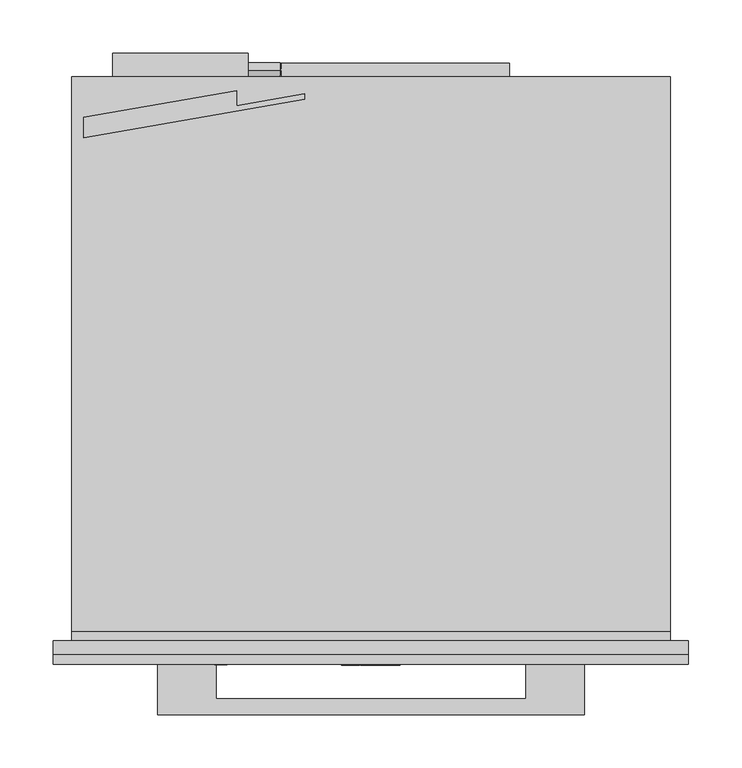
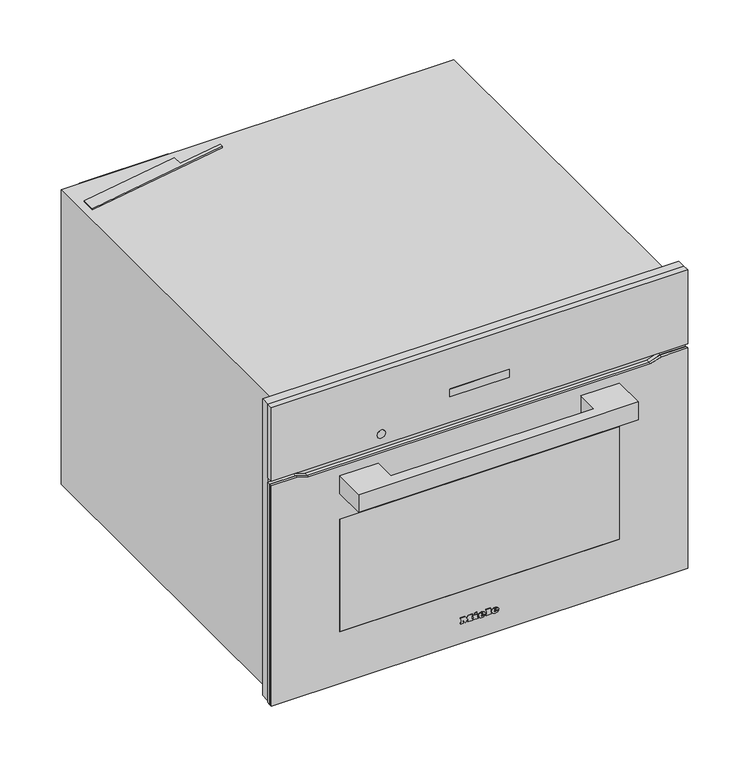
"""IFC4 building model written with IfcOpenShell, lengths in millimetres: proxy geometry, 12842740_USA_H7240BM_OBSW : 22724026_USA_12842740_H7240BM_OBSW."""

import ifcopenshell
import ifcopenshell.guid

model = None  # the IFC model being written
_history = None  # IfcOwnerHistory: only IFC2X3 demands one
_inside = {}  # id of a spatial element -> (the spatial element, [elements in it])
_under = {}  # id of a project, library or spatial element -> (it, [spatial elements below it])
_declared = {}  # id of a project -> (the project, [libraries it declares])
_typed = {}  # id of a type object -> (the type object, [elements of that type])
_made_of = {}  # id of a material, layer set ... -> (it, [elements and type objects made of it])


def new_model(schema):
    """Start an empty IFC model of exactly this schema.

    Asked for "IFC4X3", IfcOpenShell would pick the latest addendum, in which some entities
    have other attributes; the version numbers below select the first issue.
    IFC2X3 requires an IfcOwnerHistory on every rooted entity: one is made here for all.
    """
    global model, _history
    if schema == "IFC4X3":
        model = ifcopenshell.file(schema_version=(4, 3, 0, 0))
    else:
        model = ifcopenshell.file(schema=schema)
    _inside.clear()
    _under.clear()
    _declared.clear()
    _typed.clear()
    _made_of.clear()
    _history = None
    if model.schema == "IFC2X3":
        org = make("IfcOrganization", Name="unknown")
        user = make(
            "IfcPersonAndOrganization",
            ThePerson=make("IfcPerson", FamilyName="unknown"),
            TheOrganization=org,
        )
        app = make(
            "IfcApplication",
            ApplicationDeveloper=org,
            Version="unknown",
            ApplicationFullName="unknown",
            ApplicationIdentifier="unknown",
        )
        _history = make(
            "IfcOwnerHistory",
            OwningUser=user,
            OwningApplication=app,
            ChangeAction="ADDED",
            CreationDate=0,
        )
    return model


def make(cls, **values):
    """One entity of the class cls with the attributes given. An attribute that is None is left unset."""
    return model.create_entity(
        cls, **{name: value for name, value in values.items() if value is not None}
    )


def rooted(cls, **values):
    """An entity with a GlobalId (a new one), such as an element, a storey or a relation."""
    return make(cls, GlobalId=ifcopenshell.guid.new(), OwnerHistory=_history, **values)


def si_unit(unit_type, name, prefix=None):
    """IfcSIUnit, for example si_unit("LENGTHUNIT", "METRE", prefix="MILLI")."""
    return make("IfcSIUnit", UnitType=unit_type, Prefix=prefix, Name=name)


def assignment(units):
    """IfcUnitAssignment: the units of a project."""
    return None if units is None else make("IfcUnitAssignment", Units=units)


def point(xyz):
    """IfcCartesianPoint."""
    return None if xyz is None else make("IfcCartesianPoint", Coordinates=xyz)


def direction(xyz):
    """IfcDirection."""
    return None if xyz is None else make("IfcDirection", DirectionRatios=xyz)


def frame(location, z_axis=None, x_axis=None):
    """IfcAxis2Placement3D, a coordinate frame: its origin and axes. An axis left out is left unset."""
    return make(
        "IfcAxis2Placement3D",
        Location=point(location),
        Axis=direction(z_axis),
        RefDirection=direction(x_axis),
    )


def frame_2d(location, x_axis=None):
    """IfcAxis2Placement2D, a coordinate frame in the plane: its origin and x axis."""
    return make(
        "IfcAxis2Placement2D", Location=point(location), RefDirection=direction(x_axis)
    )


def origin():
    """The frame at (0, 0, 0) with its axes left unset."""
    return frame((0.0, 0.0, 0.0))


def place(relative_to, where):
    """IfcLocalPlacement: puts the frame where relative to a parent placement (None: the world)."""
    return make(
        "IfcLocalPlacement", PlacementRelTo=relative_to, RelativePlacement=where
    )


def context(
    kind, dimensions, precision=None, world=None, true_north=None, identifier=None
):
    """IfcGeometricRepresentationContext, for example the 3D "Model" context."""
    return make(
        "IfcGeometricRepresentationContext",
        ContextIdentifier=identifier,
        ContextType=kind,
        CoordinateSpaceDimension=dimensions,
        Precision=precision,
        WorldCoordinateSystem=world,
        TrueNorth=true_north,
    )


def project(units=None, contexts=None):
    """IfcProject with its units and contexts."""
    return rooted(
        "IfcProject",
        Name="project",
        RepresentationContexts=contexts,
        UnitsInContext=assignment(units),
    )


def spatial(cls, under=None, at=None, **own):
    """A site, building, storey or space (cls), placed at a placement, below another one or the project."""
    s = rooted(cls, ObjectPlacement=at, **own)
    if under is not None:
        _under.setdefault(under.id(), (under, []))[1].append(s)
    return s


def polyline(points):
    """IfcPolyline through the points."""
    return make("IfcPolyline", Points=[point(p) for p in points])


def circle_curve(where, radius):
    """IfcCircle in the frame where."""
    return make("IfcCircle", Position=where, Radius=radius)


def ellipse_curve(where, semi_axis1, semi_axis2):
    """IfcEllipse in the frame where."""
    return make(
        "IfcEllipse", Position=where, SemiAxis1=semi_axis1, SemiAxis2=semi_axis2
    )


def trimmed(basis, trim1, trim2, sense, master):
    """IfcTrimmedCurve: the piece of a basis curve between two trims."""
    return make(
        "IfcTrimmedCurve",
        BasisCurve=basis,
        Trim1=trim1,
        Trim2=trim2,
        SenseAgreement=sense,
        MasterRepresentation=master,
    )


def segment(curve, same_sense, transition):
    """IfcCompositeCurveSegment."""
    return make(
        "IfcCompositeCurveSegment",
        Transition=transition,
        SameSense=same_sense,
        ParentCurve=curve,
    )


def composite_curve(segments, self_intersect=None):
    """IfcCompositeCurve: segments joined end to end."""
    return make("IfcCompositeCurve", Segments=segments, SelfIntersect=self_intersect)


def outline(outer, holes=None, kind="AREA"):
    """IfcArbitraryClosedProfileDef: a profile drawn as a closed curve; with holes, ...WithVoids."""
    if holes is None:
        return make("IfcArbitraryClosedProfileDef", ProfileType=kind, OuterCurve=outer)
    return make(
        "IfcArbitraryProfileDefWithVoids",
        ProfileType=kind,
        OuterCurve=outer,
        InnerCurves=holes,
    )


def extrude(swept, where, along, depth):
    """IfcExtrudedAreaSolid: the profile swept, set in the frame where, extruded along a direction by depth."""
    return make(
        "IfcExtrudedAreaSolid",
        SweptArea=swept,
        Position=where,
        ExtrudedDirection=direction(along),
        Depth=depth,
    )


def faces_of(points, faces, orient=None, outer=None):
    """IfcFace entities. A face is a list of loops; a loop is a list of indices into points, from 0.

    orient and outer hold one flag for each loop. By default every Orientation is true, the
    first loop of a face is its IfcFaceOuterBound and the others are IfcFaceBound.
    """
    made = []
    for i, loops in enumerate(faces):
        bounds = []
        for j, loop in enumerate(loops):
            is_outer = j == 0 if outer is None else outer[i][j]
            bounds.append(
                make(
                    "IfcFaceOuterBound" if is_outer else "IfcFaceBound",
                    Bound=make("IfcPolyLoop", Polygon=[points[k] for k in loop]),
                    Orientation=True if orient is None else orient[i][j],
                )
            )
        made.append(make("IfcFace", Bounds=bounds))
    return made


def faceted_brep(points, faces, orient=None, outer=None, voids=None):
    """IfcFacetedBrep: a solid bounded by flat faces; with voids (closed shells), ...WithVoids."""
    shared = [point(p) for p in points]
    hull = make("IfcClosedShell", CfsFaces=faces_of(shared, faces, orient, outer))
    if voids is None:
        return make("IfcFacetedBrep", Outer=hull)
    return make(
        "IfcFacetedBrepWithVoids",
        Outer=hull,
        Voids=[
            make(cls, CfsFaces=faces_of(shared, fs, o, b)) for cls, fs, o, b in voids
        ],
    )


def shape(context_of_items, identifier, shape_type, items):
    """IfcShapeRepresentation: the items that make up one representation, for example the "Body"."""
    return make(
        "IfcShapeRepresentation",
        ContextOfItems=context_of_items,
        RepresentationIdentifier=identifier,
        RepresentationType=shape_type,
        Items=items,
    )


def source(mapping_origin, context_of_items, identifier, shape_type, items):
    """IfcRepresentationMap: a shape defined once, which mapped items show again and again."""
    return make(
        "IfcRepresentationMap",
        MappingOrigin=mapping_origin,
        MappedRepresentation=shape(context_of_items, identifier, shape_type, items),
    )


def transform(
    local_origin,
    x_axis=None,
    y_axis=None,
    z_axis=None,
    scale=None,
    scale2=None,
    scale3=None,
    uniform=True,
):
    """IfcCartesianTransformationOperator3D, or its non-uniform kind. x_axis, y_axis, z_axis: its Axis1, 2, 3."""
    if uniform:
        return make(
            "IfcCartesianTransformationOperator3D",
            Axis1=direction(x_axis),
            Axis2=direction(y_axis),
            LocalOrigin=point(local_origin),
            Scale=scale,
            Axis3=direction(z_axis),
        )
    return make(
        "IfcCartesianTransformationOperator3DnonUniform",
        Axis1=direction(x_axis),
        Axis2=direction(y_axis),
        LocalOrigin=point(local_origin),
        Scale=scale,
        Axis3=direction(z_axis),
        Scale2=scale2,
        Scale3=scale3,
    )


def mapped(mapping_source, mapping_target):
    """IfcMappedItem: shows the shape of a source again, moved by a transform."""
    return make(
        "IfcMappedItem", MappingSource=mapping_source, MappingTarget=mapping_target
    )


def made_of(thing, what):
    """Note that an element or type object is made of a material, layer set ...; save() writes the relation."""
    if what is not None:
        _made_of.setdefault(what.id(), (what, []))[1].append(thing)
    return thing


def element(
    cls,
    number,
    at=None,
    inside=None,
    cuts=None,
    type_object=None,
    material=None,
    context=None,
    identifier="Body",
    shape_type=None,
    held_by="IfcProductDefinitionShape",
    body=None,
    shapes=None,
    **own,
):
    """One element of the class cls, such as IfcWall. Its Tag is "e" and its number.

    at: its placement. inside: the storey or other place that contains it. cuts: it is an
    opening in that element (IfcRelVoidsElement). A single representation is given by context,
    identifier, shape_type and body (its items); several are given by shapes. held_by: the class
    of the entity that holds the representations. save() writes the other relations.
    """
    e = rooted(cls, Tag="e%d" % number, ObjectPlacement=at, **own)
    if body is not None:
        shapes = [shape(context, identifier, shape_type, body)]
    if shapes is not None:
        e.Representation = make(held_by, Representations=shapes)
    if inside is not None:
        _inside.setdefault(inside.id(), (inside, []))[1].append(e)
    if cuts is not None:
        rooted(
            "IfcRelVoidsElement", RelatingBuildingElement=cuts, RelatedOpeningElement=e
        )
    if type_object is not None:
        _typed.setdefault(type_object.id(), (type_object, []))[1].append(e)
    return made_of(e, material)


def aggregate(whole, parts):
    """IfcRelAggregates: a whole, such as a stair, and the parts it consists of."""
    return rooted("IfcRelAggregates", RelatingObject=whole, RelatedObjects=parts)


def save(model, path):
    """Write the relations noted so far, then the file.

    IfcRelAggregates (storeys below a building ...), IfcRelContainedInSpatialStructure (elements
    in a storey), IfcRelDefinesByType, IfcRelAssociatesMaterial and IfcRelDeclares: one each for
    every whole, place, type object, material and project.
    """
    for whole, parts in _under.values():
        aggregate(whole, parts)
    for where, things in _inside.values():
        rooted(
            "IfcRelContainedInSpatialStructure",
            RelatedElements=things,
            RelatingStructure=where,
        )
    for kind, things in _typed.values():
        rooted("IfcRelDefinesByType", RelatedObjects=things, RelatingType=kind)
    for what, things in _made_of.values():
        rooted("IfcRelAssociatesMaterial", RelatedObjects=things, RelatingMaterial=what)
    for by, libraries in _declared.values():
        rooted("IfcRelDeclares", RelatingContext=by, RelatedDefinitions=libraries)
    model.write(path)


def plane_surface(at):
    """IfcPlane: the flat surface through the origin of the frame at, square to its z axis."""
    return make("IfcPlane", Position=at)


def cylinder_surface(at, radius):
    """IfcCylindricalSurface: all points at the distance radius from the z axis of the frame at."""
    return make("IfcCylindricalSurface", Position=at, Radius=radius)


def revolved_surface(curve, axis_point, axis_direction):
    """IfcSurfaceOfRevolution: the curve turned about the line through axis_point along axis_direction."""
    return make(
        "IfcSurfaceOfRevolution",
        SweptCurve=make("IfcArbitraryOpenProfileDef", ProfileType="CURVE", Curve=curve),
        AxisPosition=make("IfcAxis1Placement", Location=point(axis_point), Axis=direction(axis_direction)),
    )


def extruded_surface(curve, direction_of_extrusion, depth):
    """IfcSurfaceOfLinearExtrusion: the curve pushed along a direction by depth."""
    return make(
        "IfcSurfaceOfLinearExtrusion",
        SweptCurve=make("IfcArbitraryOpenProfileDef", ProfileType="CURVE", Curve=curve),
        ExtrudedDirection=direction(direction_of_extrusion),
        Depth=depth,
    )


def advanced_brep(points, edges, surfaces, faces):
    """IfcAdvancedBrep: a solid bounded by faces that lie on surfaces and meet in shared edges.

    An edge is (start, end): straight between two places in points (the first is 0);
    or (start, end, curve); or (start, end, curve, False) where it runs against its curve.
    A face is (place in surfaces, loops), or (place, loops, False) where it looks against
    its surface's normal. A loop lists edges by number (the first is 1), with a minus sign
    where the edge is run from its end to its start. The first loop is the outer one.
    """
    corners = [point(p) for p in points]
    vertices = [make("IfcVertexPoint", VertexGeometry=c) for c in corners]
    made = []
    for start, end, *more in edges:
        made.append(
            make(
                "IfcEdgeCurve",
                EdgeStart=vertices[start],
                EdgeEnd=vertices[end],
                EdgeGeometry=more[0] if more else make("IfcPolyline", Points=[corners[start], corners[end]]),
                SameSense=more[1] if len(more) > 1 else True,
            )
        )
    hull = []
    for where, loops, *sense in faces:
        bounds = []
        for j, loop in enumerate(loops):
            ring = [make("IfcOrientedEdge", EdgeElement=made[abs(k) - 1], Orientation=k > 0) for k in loop]
            bounds.append(
                make(
                    "IfcFaceOuterBound" if j == 0 else "IfcFaceBound",
                    Bound=make("IfcEdgeLoop", EdgeList=ring),
                    Orientation=True,
                )
            )
        hull.append(make("IfcAdvancedFace", Bounds=bounds, FaceSurface=surfaces[where], SameSense=sense[0] if sense else True))
    return make("IfcAdvancedBrep", Outer=make("IfcClosedShell", CfsFaces=hull))


def specialty_equipment_4923d833(model_context):
    return source(origin(), model_context, "Body", "SolidModel", [
        advanced_brep(
        [(21.28, -23.0, 36.133), (21.28, -23.0, 37.042), (27.301, -23.0, 37.042), (16.825, -23.0, 37.042), (19.3, -23.0, 34.0), (27.148, -23.0, 36.133), (24.43, -23.0, 36.133), (22.288, -23.0, 35.125), (21.28, -23.0, 38.194), (21.28, -23.0, 39.175), (22.819, -23.0, 39.175), (22.819, -23.0, 38.194), (21.28, -22.0, 36.133), (22.288, -22.0, 35.125), (24.43, -22.0, 36.133), (27.148, -22.0, 36.133), (19.3, -22.0, 34.0), (16.825, -22.0, 37.042), (27.301, -22.0, 37.042), (21.28, -22.0, 37.042), (21.28, -22.0, 38.194), (22.819, -22.0, 38.194), (22.819, -22.0, 39.175), (21.28, -22.0, 39.175)],
        [
            (0, 1),
            (1, 2),
            (2, 3, ellipse_curve(frame((22.063, -23.0, 37.042), z_axis=(0.0, -1.0, 0.0), x_axis=(-1.0, 0.0, 0.0)), 5.238, 4.329)),
            (3, 4, circle_curve(frame((20.3080491, -23.0, 37.348), z_axis=(0.0, -1.0, 0.0), x_axis=(0.0, 0.0, -1.0)), 3.4964649)),
            (4, 5, circle_curve(frame((21.9581428, -23.0, 39.724), z_axis=(0.0, -1.0, 0.0), x_axis=(0.0, 0.0, -1.0)), 6.3110933)),
            (5, 6),
            (6, 7, circle_curve(frame((22.7279412, -23.0, 36.97), z_axis=(0.0, 1.0, 0.0), x_axis=(0.0, 0.0, -1.0)), 1.896727)),
            (7, 0, circle_curve(frame((22.288, -23.0, 36.133), z_axis=(0.0, 1.0, 0.0), x_axis=(0.0, 0.0, -1.0)), 1.008)),
            (8, 9),
            (9, 10, circle_curve(frame((22.0495, -23.0, 39.175), z_axis=(0.0, 1.0, 0.0), x_axis=(0.0, 0.0, -1.0)), 0.7695)),
            (10, 11),
            (11, 8),
            (12, 13, circle_curve(frame((22.288, -22.0, 36.133), z_axis=(0.0, -1.0, 0.0), x_axis=(0.0, 0.0, -1.0)), 1.008)),
            (13, 14, circle_curve(frame((22.7279412, -22.0, 36.97), z_axis=(0.0, -1.0, 0.0), x_axis=(0.0, 0.0, -1.0)), 1.896727)),
            (14, 15),
            (15, 16, circle_curve(frame((21.9581428, -22.0, 39.724), z_axis=(0.0, 1.0, 0.0), x_axis=(0.0, 0.0, -1.0)), 6.3110933)),
            (16, 17, circle_curve(frame((20.3080491, -22.0, 37.348), z_axis=(0.0, 1.0, 0.0), x_axis=(0.0, 0.0, -1.0)), 3.4964649)),
            (17, 18, ellipse_curve(frame((22.063, -22.0, 37.042), z_axis=(0.0, 1.0, 0.0), x_axis=(-1.0, 0.0, 0.0)), 5.238, 4.329)),
            (18, 19),
            (19, 12),
            (20, 21),
            (21, 22),
            (22, 23, circle_curve(frame((22.0495, -22.0, 39.175), z_axis=(0.0, -1.0, 0.0), x_axis=(0.0, 0.0, -1.0)), 0.7695)),
            (23, 20),
            (0, 12),
            (19, 1),
            (18, 2),
            (5, 15),
            (14, 6),
            (17, 3),
            (13, 7),
            (16, 4),
            (8, 20),
            (23, 9),
            (22, 10),
            (21, 11),
        ],
        [
            plane_surface(frame((21.28, -23.0, 37.042), z_axis=(0.0, -1.0, 0.0), x_axis=(0.0, 0.0, 1.0))),
            plane_surface(frame((21.28, -22.0, 37.042), z_axis=(0.0, 1.0, 0.0), x_axis=(0.0, 0.0, -1.0))),
            plane_surface(frame((21.28, -23.0, 36.133), z_axis=(1.0, 0.0, 0.0), x_axis=(0.0, 1.0, 0.0))),
            plane_surface(frame((21.28, -23.0, 37.042), z_axis=(0.0, 0.0, -1.0), x_axis=(0.0, 1.0, 0.0))),
            plane_surface(frame((27.148, -23.0, 36.133), z_axis=(0.0, 0.0, 1.0), x_axis=(0.0, 1.0, 0.0))),
            extruded_surface(trimmed(ellipse_curve(frame((22.063, -21.0, 37.042), z_axis=(0.0, -1.0, 0.0), x_axis=(-1.0, 0.0, 0.0)), 5.238, 4.329), [point((27.301, -21.0, 37.042))], [point((16.825, -21.0, 37.042))], True, "CARTESIAN"), (0.0, -1.0, 0.0), 1.0),
            revolved_surface(polyline([(22.7279412, -22.0, 35.073273), (22.7279412, -23.0, 35.073273)]), (22.7279412, -22.0, 36.97), (0.0, 1.0, 0.0)),
            revolved_surface(polyline([(22.288, -22.0, 35.125), (22.288, -23.0, 35.125)]), (22.288, -22.0, 36.133), (0.0, 1.0, 0.0)),
            cylinder_surface(frame((20.3080491, -22.0, 37.348), z_axis=(0.0, -1.0, 0.0), x_axis=(0.0, 0.0, -1.0)), 3.4964649),
            cylinder_surface(frame((21.9581428, -22.0, 39.724), z_axis=(0.0, -1.0, 0.0), x_axis=(0.0, 0.0, -1.0)), 6.3110933),
            plane_surface(frame((21.28, -23.0, 38.194), z_axis=(1.0, 0.0, 0.0), x_axis=(0.0, 1.0, 0.0))),
            revolved_surface(polyline([(22.0495, -22.0, 38.405499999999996), (22.0495, -23.0, 38.405499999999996)]), (22.0495, -22.0, 39.175), (0.0, 1.0, 0.0)),
            plane_surface(frame((22.819, -23.0, 39.175), z_axis=(-1.0, 0.0, 0.0), x_axis=(0.0, 1.0, 0.0))),
            plane_surface(frame((22.819, -23.0, 38.194), z_axis=(0.0, 0.0, 1.0), x_axis=(0.0, 1.0, 0.0))),
        ],
        [
            (0, [[1, 2, 3, 4, 5, 6, 7, 8], [9, 10, 11, 12]]),
            (1, [[13, 14, 15, 16, 17, 18, 19, 20], [21, 22, 23, 24]]),
            (2, [[-1, 25, -20, 26]]),
            (3, [[-2, -26, -19, 27]]),
            (4, [[-6, 28, -15, 29]]),
            (5, [[-3, -27, -18, 30]]),
            (6, [[-7, -29, -14, 31]]),
            (7, [[-8, -31, -13, -25]]),
            (8, [[-4, -30, -17, 32]]),
            (9, [[-5, -32, -16, -28]]),
            (10, [[-9, 33, -24, 34]]),
            (11, [[-10, -34, -23, 35]]),
            (12, [[-11, -35, -22, 36]]),
            (13, [[-12, -36, -21, -33]]),
        ],
    ),
        advanced_brep(
        [(2.497, -23.0, 36.133), (2.497, -23.0, 37.042), (8.518, -23.0, 37.042), (-1.958, -23.0, 37.042), (0.517, -23.0, 34.0), (8.365, -23.0, 36.133), (5.647, -23.0, 36.133), (3.505, -23.0, 35.125), (2.497, -23.0, 38.194), (2.497, -23.0, 39.175), (4.036, -23.0, 39.175), (4.036, -23.0, 38.194), (2.497, -22.0, 36.133), (3.505, -22.0, 35.125), (5.647, -22.0, 36.133), (8.365, -22.0, 36.133), (0.517, -22.0, 34.0), (-1.958, -22.0, 37.042), (8.518, -22.0, 37.042), (2.497, -22.0, 37.042), (2.497, -22.0, 38.194), (4.036, -22.0, 38.194), (4.036, -22.0, 39.175), (2.497, -22.0, 39.175)],
        [
            (0, 1),
            (1, 2),
            (2, 3, ellipse_curve(frame((3.28, -23.0, 37.042), z_axis=(0.0, -1.0, 0.0), x_axis=(-1.0, 0.0, 0.0)), 5.238, 4.329)),
            (3, 4, circle_curve(frame((1.5250491, -23.0, 37.348), z_axis=(0.0, -1.0, 0.0), x_axis=(0.0, 0.0, -1.0)), 3.4964649)),
            (4, 5, circle_curve(frame((3.1751428, -23.0, 39.724), z_axis=(0.0, -1.0, 0.0), x_axis=(0.0, 0.0, -1.0)), 6.3110933)),
            (5, 6),
            (6, 7, circle_curve(frame((3.9449412, -23.0, 36.97), z_axis=(0.0, 1.0, 0.0), x_axis=(0.0, 0.0, -1.0)), 1.896727)),
            (7, 0, circle_curve(frame((3.505, -23.0, 36.133), z_axis=(0.0, 1.0, 0.0), x_axis=(0.0, 0.0, -1.0)), 1.008)),
            (8, 9),
            (9, 10, circle_curve(frame((3.2665, -23.0, 39.175), z_axis=(0.0, 1.0, 0.0), x_axis=(0.0, 0.0, -1.0)), 0.7695)),
            (10, 11),
            (11, 8),
            (12, 13, circle_curve(frame((3.505, -22.0, 36.133), z_axis=(0.0, -1.0, 0.0), x_axis=(0.0, 0.0, -1.0)), 1.008)),
            (13, 14, circle_curve(frame((3.9449412, -22.0, 36.97), z_axis=(0.0, -1.0, 0.0), x_axis=(0.0, 0.0, -1.0)), 1.896727)),
            (14, 15),
            (15, 16, circle_curve(frame((3.1751428, -22.0, 39.724), z_axis=(0.0, 1.0, 0.0), x_axis=(0.0, 0.0, -1.0)), 6.3110933)),
            (16, 17, circle_curve(frame((1.5250491, -22.0, 37.348), z_axis=(0.0, 1.0, 0.0), x_axis=(0.0, 0.0, -1.0)), 3.4964649)),
            (17, 18, ellipse_curve(frame((3.28, -22.0, 37.042), z_axis=(0.0, 1.0, 0.0), x_axis=(-1.0, 0.0, 0.0)), 5.238, 4.329)),
            (18, 19),
            (19, 12),
            (20, 21),
            (21, 22),
            (22, 23, circle_curve(frame((3.2665, -22.0, 39.175), z_axis=(0.0, -1.0, 0.0), x_axis=(0.0, 0.0, -1.0)), 0.7695)),
            (23, 20),
            (0, 12),
            (19, 1),
            (18, 2),
            (5, 15),
            (14, 6),
            (17, 3),
            (13, 7),
            (16, 4),
            (8, 20),
            (23, 9),
            (22, 10),
            (21, 11),
        ],
        [
            plane_surface(frame((2.497, -23.0, 37.042), z_axis=(0.0, -1.0, 0.0), x_axis=(0.0, 0.0, 1.0))),
            plane_surface(frame((2.497, -22.0, 37.042), z_axis=(0.0, 1.0, 0.0), x_axis=(0.0, 0.0, -1.0))),
            plane_surface(frame((2.497, -23.0, 36.133), z_axis=(1.0, 0.0, 0.0), x_axis=(0.0, 1.0, 0.0))),
            plane_surface(frame((2.497, -23.0, 37.042), z_axis=(0.0, 0.0, -1.0), x_axis=(0.0, 1.0, 0.0))),
            plane_surface(frame((8.365, -23.0, 36.133), z_axis=(0.0, 0.0, 1.0), x_axis=(0.0, 1.0, 0.0))),
            extruded_surface(trimmed(ellipse_curve(frame((3.28, -21.0, 37.042), z_axis=(0.0, -1.0, 0.0), x_axis=(-1.0, 0.0, 0.0)), 5.238, 4.329), [point((8.518, -21.0, 37.042))], [point((-1.958, -21.0, 37.042))], True, "CARTESIAN"), (0.0, -1.0, 0.0), 1.0),
            revolved_surface(polyline([(3.9449412, -22.0, 35.073273), (3.9449412, -23.0, 35.073273)]), (3.9449412, -22.0, 36.97), (0.0, 1.0, 0.0)),
            revolved_surface(polyline([(3.505, -22.0, 35.125), (3.505, -23.0, 35.125)]), (3.505, -22.0, 36.133), (0.0, 1.0, 0.0)),
            cylinder_surface(frame((1.5250491, -22.0, 37.348), z_axis=(0.0, -1.0, 0.0), x_axis=(0.0, 0.0, -1.0)), 3.4964649),
            cylinder_surface(frame((3.1751428, -22.0, 39.724), z_axis=(0.0, -1.0, 0.0), x_axis=(0.0, 0.0, -1.0)), 6.3110933),
            plane_surface(frame((2.497, -23.0, 38.194), z_axis=(1.0, 0.0, 0.0), x_axis=(0.0, 1.0, 0.0))),
            revolved_surface(polyline([(3.2665, -22.0, 38.405499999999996), (3.2665, -23.0, 38.405499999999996)]), (3.2665, -22.0, 39.175), (0.0, 1.0, 0.0)),
            plane_surface(frame((4.036, -23.0, 39.175), z_axis=(-1.0, 0.0, 0.0), x_axis=(0.0, 1.0, 0.0))),
            plane_surface(frame((4.036, -23.0, 38.194), z_axis=(0.0, 0.0, 1.0), x_axis=(0.0, 1.0, 0.0))),
        ],
        [
            (0, [[1, 2, 3, 4, 5, 6, 7, 8], [9, 10, 11, 12]]),
            (1, [[13, 14, 15, 16, 17, 18, 19, 20], [21, 22, 23, 24]]),
            (2, [[-1, 25, -20, 26]]),
            (3, [[-2, -26, -19, 27]]),
            (4, [[-6, 28, -15, 29]]),
            (5, [[-3, -27, -18, 30]]),
            (6, [[-7, -29, -14, 31]]),
            (7, [[-8, -31, -13, -25]]),
            (8, [[-4, -30, -17, 32]]),
            (9, [[-5, -32, -16, -28]]),
            (10, [[-9, 33, -24, 34]]),
            (11, [[-10, -34, -23, 35]]),
            (12, [[-11, -35, -22, 36]]),
            (13, [[-12, -36, -21, -33]]),
        ],
    ),
        extrude(outline(polyline([(42.469, -7.34), (41.011, -6.656), (42.433, -3.605), (43.891, -4.28), (42.469, -7.34)])), frame((0.0, -23.0, 0.0), z_axis=(0.0, 1.0, 0.0), x_axis=(0.0, 0.0, 1.0)), (0.0, 0.0, 1.0), 1.0),
        extrude(outline(polyline([(40.813, -9.563), (39.202, -9.563), (39.202, -8.492), (35.512, -8.492), (35.512, -9.563), (34.0, -9.563), (34.0, -2.462), (35.512, -2.462), (35.512, -3.506), (40.813, -3.506), (40.813, -9.563)])), frame((0.0, -23.0, 0.0), z_axis=(0.0, 1.0, 0.0), x_axis=(0.0, 0.0, 1.0)), (0.0, 0.0, 1.0), 1.0),
        extrude(outline(polyline([(41.533, 9.022), (41.533, 10.102), (35.512, 10.102), (35.512, 9.022), (34.0, 9.022), (34.0, 16.321), (35.512, 16.321), (35.512, 15.214), (43.0, 15.214), (43.0, 9.022), (41.533, 9.022)])), frame((0.0, -23.0, 0.0), z_axis=(0.0, 1.0, 0.0), x_axis=(0.0, 0.0, 1.0)), (0.0, 0.0, 1.0), 1.0),
        extrude(outline(polyline([(41.533, -27.5), (41.533, -26.411), (35.512, -26.411), (35.512, -27.5), (34.0, -27.5), (34.0, -23.54), (35.512, -23.54), (35.512, -24.62), (39.3341247, -24.62), (34.0, -20.597), (39.4402223, -16.556), (35.512, -16.556), (35.512, -17.663), (34.0, -17.663), (34.0, -10.481), (35.512, -10.481), (35.512, -11.624), (41.533, -11.624), (41.533, -10.481), (43.0, -10.481), (43.0, -15.962), (39.625, -18.59), (43.0, -21.227), (43.0, -27.5), (41.533, -27.5)])), frame((0.0, -23.0, 0.0), z_axis=(0.0, 1.0, 0.0), x_axis=(0.0, 0.0, 1.0)), (0.0, 0.0, 1.0), 1.0),
        extrude(outline(polyline([(-200.0, -69.0), (-200.0, -22.0), (-145.0, -22.0), (-145.0, -54.0), (145.0, -54.0), (145.0, -22.0), (200.0, -22.0), (200.0, -69.0), (-200.0, -69.0)])), frame((0.0, 0.0, 291.0), z_axis=(0.0, 0.0, 1.0), x_axis=(1.0, 0.0, 0.0)), (0.0, 0.0, 1.0), 27.0),
        extrude(outline(polyline([(337.0, -297.5), (4.0, -297.5), (4.0, 297.5), (337.0, 297.5), (337.0, 260.3542631), (332.0, 244.0), (332.0, -244.0), (337.0, -260.3542631), (337.0, -297.5)])), frame((0.0, -18.0, 0.0), z_axis=(0.0, 1.0, 0.0), x_axis=(0.0, 0.0, 1.0)), (0.0, 0.0, 1.0), 5.0),
        extrude(outline(polyline([(337.0, -297.5), (4.0, -297.5), (4.0, 297.5), (337.0, 297.5), (337.0, 260.3542631), (332.0, 244.0), (332.0, -244.0), (337.0, -260.3542631), (337.0, -297.5)]), holes=[polyline([(252.0, 200.0), (82.0, 200.0), (82.0, -200.0), (252.0, -200.0), (252.0, 200.0)])]), frame((0.0, -22.0, 0.0), z_axis=(0.0, 1.0, 0.0), x_axis=(0.0, 0.0, 1.0)), (0.0, 0.0, 1.0), 4.0),
        extrude(outline(polyline([(-200.0, -18.0), (200.0, -18.0), (200.0, -22.0), (-200.0, -22.0), (-200.0, -18.0)])), frame((0.0, 0.0, 82.0), z_axis=(0.0, 0.0, 1.0), x_axis=(1.0, 0.0, 0.0)), (0.0, 0.0, 1.0), 170.0),
        extrude(outline(polyline([(-42.5, -21.0), (42.5, -21.0), (42.5, -22.0), (-42.5, -22.0), (-42.5, -21.0)])), frame((0.0, 0.0, 382.0), z_axis=(0.0, 0.0, 1.0), x_axis=(1.0, 0.0, 0.0)), (0.0, 0.0, 1.0), 12.0),
        faceted_brep([(297.5, -13.0, 455.0), (297.5, -13.0, 343.5), (-297.5, -13.0, 343.5), (-297.5, -13.0, 455.0), (297.5, -22.0, 343.5), (-297.5, -22.0, 343.5), (297.5, -22.0, 455.0), (-297.5, -22.0, 455.0), (42.5, -22.0, 394.0), (42.5, -22.0, 382.0), (-42.5, -22.0, 382.0), (-42.5, -22.0, 394.0), (-42.5, -21.0, 382.0), (-42.5, -21.0, 394.0), (42.5, -21.0, 394.0), (42.5, -21.0, 382.0)], [[[0, 1, 2, 3]], [[4, 5, 2, 1]], [[6, 7, 5, 4], [8, 9, 10, 11]], [[12, 13, 11, 10]], [[13, 14, 8, 11]], [[7, 6, 0, 3]], [[5, 7, 3, 2]], [[6, 4, 1, 0]], [[14, 13, 12, 15]], [[14, 15, 9, 8]], [[15, 12, 10, 9]]]),
        extrude(outline(composite_curve([segment(trimmed(circle_curve(frame_2d((360.5, -140.5745637)), 6.0), [point((360.5, -146.5745637))], [point((360.5, -134.5745637))], False, "CARTESIAN"), True, "CONTINUOUS"), segment(trimmed(circle_curve(frame_2d((360.5, -140.5745637)), 6.0), [point((360.5, -134.5745637))], [point((360.5, -146.5745637))], False, "CARTESIAN"), True, "CONTINUOUS")], self_intersect=False)), frame((0.0, -22.5, 0.0), z_axis=(0.0, 1.0, 0.0), x_axis=(0.0, 0.0, 1.0)), (0.0, 0.0, 1.0), 1.0),
        extrude(outline(polyline([(-269.0, 490.2851942), (-126.0, 515.1547594), (-126.0, 500.9446163), (-62.0, 512.0750511), (-62.0, 507.0), (-269.0, 471.0), (-269.0, 490.2851942)])), frame((0.0, 0.0, 445.0), z_axis=(0.0, 0.0, 1.0), x_axis=(1.0, 0.0, 0.0)), (0.0, 0.0, 1.0), 2.0),
        extrude(outline(polyline([(528.134837, 358.3256163), (533.9911721, 358.3256163), (533.9911721, 357.3256163), (529.134837, 357.3256163), (529.134837, 353.8256163), (532.0849866, 353.8256163), (532.0849866, 352.8256163), (529.134837, 352.8256163), (529.134837, 349.3256163), (533.9911721, 349.3256163), (533.9911721, 348.3256163), (528.134837, 348.3256163), (528.134837, 358.3256163)])), frame((-85.0, 0.0, 0.0), z_axis=(1.0, 0.0, 0.0), x_axis=(0.0, 1.0, 0.0)), (0.0, 0.0, 1.0), 1.0),
        extrude(outline(polyline([(535.4911721, 348.3256163), (535.4911721, 358.3256163), (536.5959622, 358.3256163), (536.5959622, 349.3256163), (540.4911721, 349.3256163), (540.4911721, 348.3256163), (535.4911721, 348.3256163)])), frame((-85.0, 0.0, 0.0), z_axis=(1.0, 0.0, 0.0), x_axis=(0.0, 1.0, 0.0)), (0.0, 0.0, 1.0), 1.0),
        extrude(outline(composite_curve([segment(trimmed(circle_curve(frame_2d((534.0, 353.0)), 7.5), [point((534.0, 345.5))], [point((534.0, 360.5))], False, "CARTESIAN"), True, "CONTINUOUS"), segment(trimmed(circle_curve(frame_2d((534.0, 353.0)), 7.5), [point((534.0, 360.5))], [point((534.0, 345.5))], False, "CARTESIAN"), True, "CONTINUOUS")], self_intersect=False)), frame((-115.0, 0.0, 0.0), z_axis=(1.0, 0.0, 0.0), x_axis=(0.0, 1.0, 0.0)), (0.0, 0.0, 1.0), 30.0),
        extrude(outline(polyline([(-115.0, 528.0), (-242.0, 528.0), (-242.0, 550.0), (-115.0, 550.0), (-115.0, 528.0)])), frame((0.0, 0.0, 325.0), z_axis=(0.0, 0.0, 1.0), x_axis=(1.0, 0.0, 0.0)), (0.0, 0.0, 1.0), 103.0),
        faceted_brep([(272.5, 17.0, 344.0), (-272.5, 17.0, 344.0), (-272.5, 17.0, 7.0), (272.5, 17.0, 7.0), (-230.0, 17.0, 270.0), (230.0, 17.0, 270.0), (230.0, 17.0, 60.0), (-230.0, 17.0, 60.0), (272.5, 0.0, 344.0), (-272.5, 0.0, 344.0), (-272.5, 0.0, 7.0), (272.5, 0.0, 7.0), (280.5, 0.0, 0.0), (280.5, 528.0, 0.0), (280.5, 528.0, 445.0), (280.5, 9.0, 445.0), (280.5, 9.0, 440.0), (280.5, 0.0, 440.0), (-280.5, 9.0, 445.0), (-280.5, 528.0, 445.0), (-280.5, 528.0, 0.0), (-280.5, 0.0, 0.0), (-280.5, 0.0, 440.0), (-280.5, 9.0, 440.0), (230.0, 412.0, 270.0), (-230.0, 412.0, 270.0), (-230.0, 412.0, 60.0), (230.0, 412.0, 60.0)], [[[0, 1, 2, 3], [4, 5, 6, 7]], [[1, 0, 8, 9]], [[2, 1, 9, 10]], [[0, 3, 11, 8]], [[12, 13, 14, 15, 16, 17]], [[18, 19, 20, 21, 22, 23]], [[13, 12, 21, 20]], [[14, 13, 20, 19]], [[15, 14, 19, 18]], [[21, 12, 17, 22], [9, 8, 11, 10]], [[24, 25, 26, 27]], [[25, 24, 5, 4]], [[26, 25, 4, 7]], [[27, 26, 7, 6]], [[24, 27, 6, 5]], [[3, 2, 10, 11]], [[16, 23, 22, 17]], [[23, 16, 15, 18]]]),
        extrude(outline(polyline([(130.0, 528.0), (-130.0, 528.0), (-130.0, 541.0), (130.0, 541.0), (130.0, 528.0)])), frame((0.0, 0.0, 36.0), z_axis=(0.0, 0.0, 1.0), x_axis=(1.0, 0.0, 0.0)), (0.0, 0.0, 1.0), 260.0),
        extrude(outline(polyline([(7.0, 297.5), (455.0, 297.5), (455.0, -297.5), (7.0, -297.5), (7.0, -272.5), (344.0, -272.5), (344.0, 272.5), (7.0, 272.5), (7.0, 297.5)])), frame((0.0, -13.0, 0.0), z_axis=(0.0, 1.0, 0.0), x_axis=(0.0, 0.0, 1.0)), (0.0, 0.0, 1.0), 13.0),
    ])


if __name__ == "__main__":
    model = new_model("IFC4")
    model_context = context("Model", 3, world=origin())
    ifc_project = project(units=[si_unit("LENGTHUNIT", "METRE", prefix="MILLI")], contexts=[model_context])
    site = spatial("IfcSite", under=ifc_project)
    building = spatial("IfcBuilding", under=site)
    placement = place(None, origin())
    specialty_equipment_shape = specialty_equipment_4923d833(model_context)
    element("IfcBuildingElementProxy", 1, Name="12842740_USA_H7240BM_OBSW : 22724026_USA_12842740_H7240BM_OBSW", ObjectType="12842740_USA_H7240BM_OBSW : 22724026_USA_12842740_H7240BM_OBSW", at=placement, inside=building, context=model_context, shape_type="MappedRepresentation", body=[
        mapped(specialty_equipment_shape, transform((0.0, 0.0, 0.0), x_axis=(1.0, 0.0, 0.0), y_axis=(0.0, 1.0, 0.0), z_axis=(0.0, 0.0, 1.0))),
    ])
    save(model, "model.ifc")
